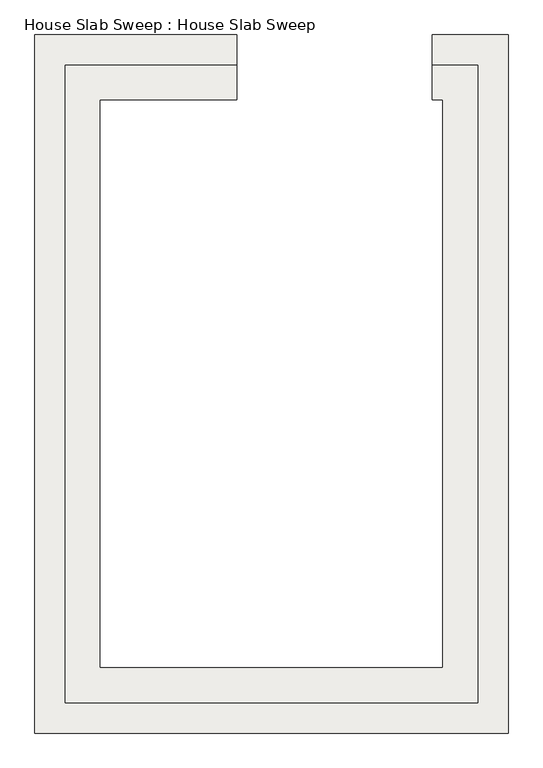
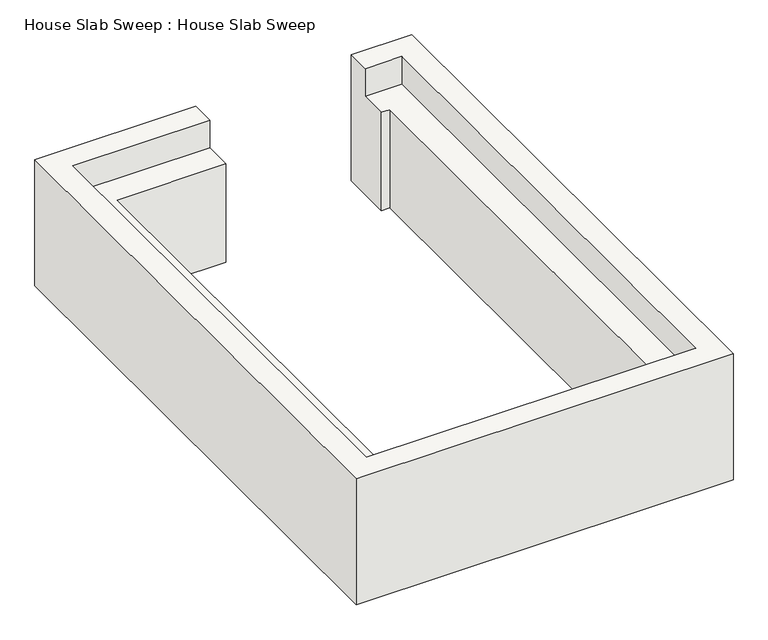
"""IFC4 building model written with IfcOpenShell, lengths in millimetres: slab geometry, House Slab Sweep : House Slab Sweep."""

from ifc_helpers import new_model, si_unit, origin, place, context, project, spatial, faceted_brep, source, transform, mapped, element, save


def house_slab_sweep_house_slab_sweep_aafa6f03(model_context):
    return source(origin(), model_context, "Body", "Brep", [
        faceted_brep([(-12319.9178637, 3348.5349287, -101.6), (-12319.9178637, 3208.8349287, -101.6), (-12319.9178637, 3208.8349287, -274.3398437), (-12319.9178637, 3043.7349287, -274.3398438), (-12319.9178637, 3043.7349287, -374.9476563), (-12319.9178637, 3043.7349287, -883.9398438), (-12319.9178637, 3348.5349287, -883.9398437), (-12319.9178637, 3348.5349287, -374.9476563), (-12319.9178637, 3348.5349287, -274.3398438), (-13266.0678637, 3348.5349287, -883.9398437), (-13266.0678637, 3348.5349287, -711.2), (-13266.0678637, 3348.5349287, -388.6398438), (-13266.0678637, 3348.5349287, -101.6), (-13266.0678637, 78.2849287, -101.6), (-11049.9178637, 78.2849287, -101.6), (-11049.9178637, 3348.5349287, -101.6), (-11405.5178637, 3348.5349287, -101.6), (-11405.5178637, 3208.8349287, -101.6), (-11189.6178637, 3208.8349287, -101.6), (-11189.6178637, 217.9849287, -101.6), (-13126.3678637, 217.9849287, -101.6), (-13126.3678637, 3208.8349287, -101.6), (-13126.3678637, 3208.8349287, -274.3398437), (-13126.3678637, 217.9849287, -274.3398438), (-11189.6178637, 217.9849287, -274.3398438), (-11189.6178637, 3208.8349287, -274.3398438), (-11405.5178637, 3208.8349287, -274.3398438), (-11405.5178637, 3043.7349287, -274.3398438), (-11354.7178637, 3043.7349287, -274.3398438), (-11354.7178637, 383.0849287, -274.3398438), (-12961.2678637, 383.0849287, -274.3398438), (-12961.2678637, 3043.7349287, -274.3398438), (-12961.2678637, 3043.7349287, -374.9476563), (-12961.2678637, 3043.7349287, -883.9398438), (-12961.2678637, 383.0849287, -883.9398438), (-11354.7178637, 383.0849287, -883.9398438), (-11354.7178637, 3043.7349287, -883.9398438), (-11405.5178637, 3043.7349287, -883.9398438), (-11405.5178637, 3348.5349287, -883.9398437), (-11049.9178637, 3348.5349287, -883.9398437), (-11049.9178637, 78.2849287, -883.9398438), (-13266.0678637, 78.2849287, -883.9398438), (-13266.0678637, 78.2849287, -609.6), (-12961.2678637, 383.0849287, -374.9476563), (-11049.9178637, 78.2849287, -609.6), (-11354.7178637, 383.0849287, -374.9476563), (-11405.5178637, 3348.5349287, -274.3398438), (-11405.5178637, 3348.5349287, -374.9476562), (-11405.5178637, 3043.7349287, -374.9476563), (-11049.9178637, 3348.5349287, -609.6), (-11354.7178637, 3043.7349287, -374.9476563)], [[[0, 1, 2, 3, 4, 5, 6, 7, 8]], [[6, 9, 10, 11, 12, 0, 8, 7]], [[1, 0, 12, 13, 14, 15, 16, 17, 18, 19, 20, 21]], [[2, 1, 21, 22]], [[3, 2, 22, 23, 24, 25, 26, 27, 28, 29, 30, 31]], [[3, 31, 32, 33, 5, 4]], [[6, 5, 33, 34, 35, 36, 37, 38, 39, 40, 41, 9]], [[12, 11, 10, 9, 41, 42, 13]], [[21, 20, 23, 22]], [[31, 30, 43, 34, 33, 32]], [[14, 13, 42, 41, 40, 44]], [[20, 19, 24, 23]], [[30, 29, 45, 35, 34, 43]], [[17, 16, 46, 47, 38, 37, 48, 27, 26]], [[15, 14, 44, 40, 39, 49]], [[19, 18, 25, 24]], [[29, 28, 50, 36, 35, 45]], [[16, 15, 49, 39, 38, 47, 46]], [[18, 17, 26, 25]], [[28, 27, 48, 37, 36, 50]]]),
    ])


if __name__ == "__main__":
    model = new_model("IFC4")
    model_context = context("Model", 3, world=origin())
    ifc_project = project(units=[si_unit("LENGTHUNIT", "METRE", prefix="MILLI")], contexts=[model_context])
    site = spatial("IfcSite", under=ifc_project)
    building = spatial("IfcBuilding", under=site)
    placement = place(None, origin())
    house_slab_sweep_house_slab_sweep_shape = house_slab_sweep_house_slab_sweep_aafa6f03(model_context)
    element("IfcSlab", 1, ObjectType="House Slab Sweep : House Slab Sweep", at=placement, inside=building, context=model_context, shape_type="MappedRepresentation", body=[
        mapped(house_slab_sweep_house_slab_sweep_shape, transform((0.0, 0.0, 0.0), x_axis=(1.0, 0.0, 0.0), y_axis=(0.0, 1.0, 0.0), z_axis=(0.0, 0.0, 1.0))),
    ])
    save(model, "model.ifc")
